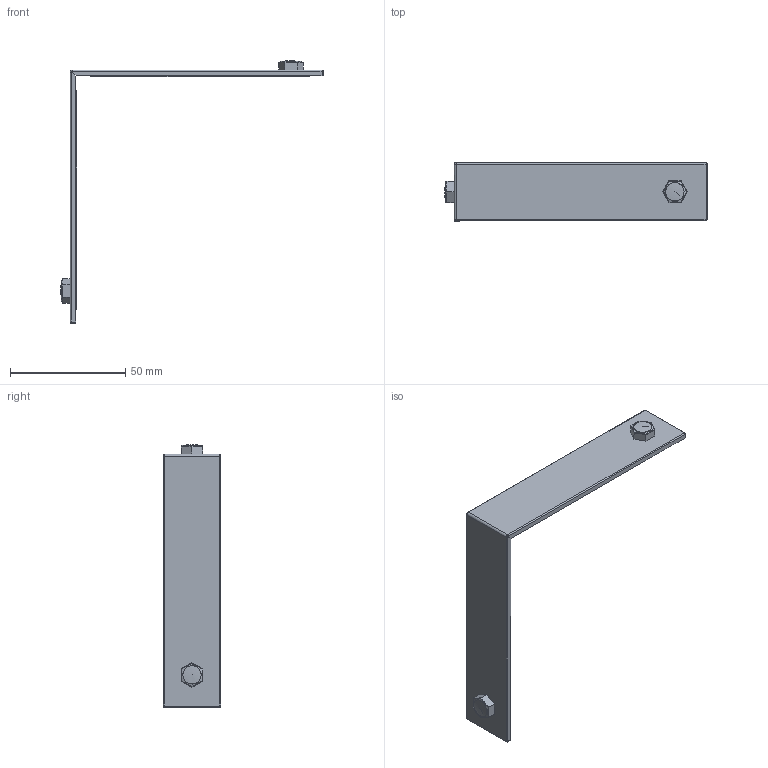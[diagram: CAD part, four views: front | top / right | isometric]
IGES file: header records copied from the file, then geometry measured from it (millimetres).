
Start section: C
Global section: file name: 8293-B3.igs; native system: By Siemens PLM Incorporated; preprocessor: XPlus GENERIC/IGES 16.0.42; author: Author; organization: Title; date: 20210505.095155; units: millimetre
Bounding box: 113.8 x 25 x 113.8 mm (x, y, z)
Surface area: 18246.1 mm2 (no closed solid volume)
Topology: 0 solids, 0 shells, 73 faces, 344 edges, 338 vertices
Faces by surface type: bspline 73
